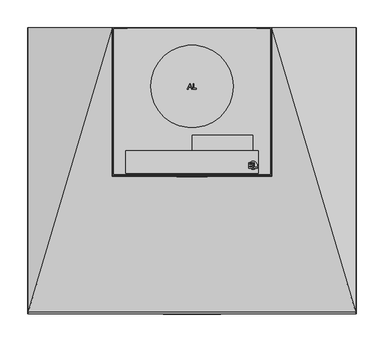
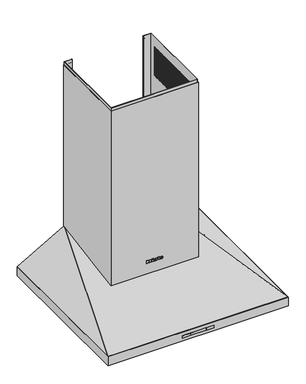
"""IFC4 building model written with IfcOpenShell, lengths in millimetres: proxy geometry, 10558640_TR_DA396-7_EDST : 28396750_TR_10558640_DA396-7_EDST."""

from ifc_helpers import new_model, si_unit, point, frame, frame_2d, origin, place, context, project, spatial, polyline, circle_curve, ellipse_curve, trimmed, segment, composite_curve, outline, extrude, faceted_brep, source, transform, mapped, element, save
from ifc_brep_helpers import plane_surface, cylinder_surface, revolved_surface, extruded_surface, advanced_brep


def specialty_equipment_92b99cc2(model_context):
    return source(origin(), model_context, "Body", "SolidModel", [
        extrude(outline(polyline([(110.5, -224.0), (0.5, -224.0), (0.5, -196.0), (110.5, -196.0), (110.5, -224.0)])), frame((0.0, 0.0, 392.0), z_axis=(0.0, 0.0, 1.0), x_axis=(1.0, 0.0, 0.0)), (0.0, 0.0, 1.0), 52.0),
        extrude(outline(polyline([(120.5, -224.0), (120.5, -265.0), (-120.5, -265.0), (-120.5, -224.0), (120.5, -224.0)])), frame((0.0, 0.0, 392.0), z_axis=(0.0, 0.0, 1.0), x_axis=(1.0, 0.0, 0.0)), (0.0, 0.0, 1.0), 122.0),
        extrude(outline(polyline([(110.014065, -245.4922441), (110.0153832, -246.7601226), (104.1612855, -246.7662093), (104.1643577, -249.7209702), (109.7295269, -249.7151839), (109.7308417, -250.9796987), (104.1656725, -250.9854851), (104.1690817, -254.2643966), (110.1974102, -254.2581287), (110.198736, -255.5332931), (102.9171087, -255.5332931), (102.9066684, -245.4922441), (110.014065, -245.4922441)])), frame((0.0, 0.0, 544.0), z_axis=(0.0, 0.0, 1.0), x_axis=(1.0, 0.0, 0.0)), (0.0, 0.0, 1.0), 1.0),
        extrude(outline(polyline([(112.0694489, -255.5332931), (112.0590087, -245.4922441), (113.3383774, -245.4922441), (113.3475128, -254.2784223), (118.3475101, -254.2732236), (118.3488202, -255.5332931), (112.0694489, -255.5332931)])), frame((0.0, 0.0, 544.0), z_axis=(0.0, 0.0, 1.0), x_axis=(1.0, 0.0, 0.0)), (0.0, 0.0, 1.0), 1.0),
        extrude(outline(composite_curve([segment(trimmed(circle_curve(frame_2d((111.0, -250.5)), 7.5), [point((103.5, -250.5))], [point((118.5, -250.5))], False, "CARTESIAN"), True, "CONTINUOUS"), segment(trimmed(circle_curve(frame_2d((111.0, -250.5)), 7.5), [point((118.5, -250.5))], [point((103.5, -250.5))], False, "CARTESIAN"), True, "CONTINUOUS")], self_intersect=False)), frame((0.0, 0.0, 514.0), z_axis=(0.0, 0.0, 1.0), x_axis=(1.0, 0.0, 0.0)), (0.0, 0.0, 1.0), 30.0),
        extrude(outline(polyline([(-4.5318611, -101.9516419), (-3.4734674, -101.9516419), (0.5452436, -111.9981975), (-0.792243, -111.9981975), (-1.9351182, -108.8581737), (-6.0626299, -108.8581737), (-7.2022382, -111.9892215), (-8.5533668, -111.9892215), (-4.5318611, -101.9516419)]), holes=[polyline([(-5.5985064, -107.6034349), (-2.3931536, -107.6034349), (-4.0041432, -103.2229581), (-5.5985064, -107.6034349)])]), frame((0.0, 0.0, 421.0), z_axis=(0.0, 0.0, 1.0), x_axis=(1.0, 0.0, 0.0)), (0.0, 0.0, 1.0), 1.0),
        extrude(outline(polyline([(1.881291, -112.0005008), (1.881291, -101.9479948), (3.1588826, -101.9479948), (3.1588826, -110.7519516), (8.1588826, -110.7519516), (8.1588826, -112.0005008), (1.881291, -112.0005008)])), frame((0.0, 0.0, 421.0), z_axis=(0.0, 0.0, 1.0), x_axis=(1.0, 0.0, 0.0)), (0.0, 0.0, 1.0), 1.0),
        extrude(outline(composite_curve([segment(trimmed(circle_curve(frame_2d((0.0, -107.0)), 75.0), [point((75.0, -107.0))], [point((-75.0, -107.0))], False, "CARTESIAN"), True, "CONTINUOUS"), segment(trimmed(circle_curve(frame_2d((0.0, -107.0)), 75.0), [point((-75.0, -107.0))], [point((75.0, -107.0))], False, "CARTESIAN"), True, "CONTINUOUS")], self_intersect=False)), frame((0.0, 0.0, 392.0), z_axis=(0.0, 0.0, 1.0), x_axis=(1.0, 0.0, 0.0)), (0.0, 0.0, 1.0), 29.0),
        extrude(outline(polyline([(142.95, -1.6), (142.95, -267.5), (-142.95, -267.5), (-142.95, -1.6), (142.95, -1.6)])), frame((0.0, 0.0, 391.0), z_axis=(0.0, 0.0, 1.0), x_axis=(1.0, 0.0, 0.0)), (0.0, 0.0, 1.0), 1.0),
        faceted_brep([(-145.0, 0.0, 685.0), (-145.0, -270.0, 685.0), (145.0, -270.0, 685.0), (145.0, 0.0, 685.0), (118.0, 0.0, 685.0), (118.0, -0.8, 685.0), (144.2, -0.8, 685.0), (144.2, -269.2, 685.0), (-144.2, -269.2, 685.0), (-144.2, -0.8, 685.0), (-118.0, -0.8, 685.0), (-118.0, 0.0, 685.0), (145.0, 0.0, 120.0), (-145.0, 0.0, 120.0), (-118.0, 0.0, 392.0), (118.0, 0.0, 392.0), (-145.0, -270.0, 74.0), (145.0, -270.0, 74.0), (144.2, -0.8, 119.8637037), (144.2, -269.2, 74.1362963), (-144.2, -269.2, 74.1362963), (-144.2, -0.8, 119.8637037), (118.0, -0.8, 392.0), (-118.0, -0.8, 392.0)], [[[0, 1, 2, 3, 4, 5, 6, 7, 8, 9, 10, 11]], [[3, 12, 13, 0, 11, 14, 15, 4]], [[1, 0, 13, 16]], [[2, 1, 16, 17]], [[3, 2, 17, 12]], [[7, 6, 18, 19]], [[8, 7, 19, 20]], [[9, 8, 20, 21]], [[18, 6, 5, 22, 23, 10, 9, 21]], [[13, 12, 17, 16], [19, 18, 21, 20]], [[15, 22, 5, 4]], [[23, 14, 11, 10]], [[22, 15, 14, 23]]]),
        faceted_brep([(-143.75, -0.8, 695.0), (-143.75, -268.3, 695.0), (143.75, -268.3, 695.0), (143.75, -0.8, 695.0), (118.0, -0.8, 695.0), (118.0, -1.6, 695.0), (142.95, -1.6, 695.0), (142.95, -267.5, 695.0), (-142.95, -267.5, 695.0), (-142.95, -1.6, 695.0), (-118.0, -1.6, 695.0), (-118.0, -0.8, 695.0), (143.75, -0.8, 220.0), (143.75, -268.3, 220.0), (-143.75, -268.3, 220.0), (-143.75, -0.8, 220.0), (142.95, -1.6, 220.0), (-142.95, -1.6, 220.0), (-142.95, -267.5, 220.0), (142.95, -267.5, 220.0), (-118.0, -0.8, 392.0), (118.0, -0.8, 392.0), (-143.75, -242.0, 660.0), (-143.75, -247.0, 660.0), (-143.75, -247.0, 560.0), (-143.75, -242.0, 560.0), (-143.75, -27.0, 560.0), (-143.75, -22.0, 560.0), (-143.75, -22.0, 660.0), (-143.75, -27.0, 660.0), (-143.75, -237.0, 660.0), (-143.75, -237.0, 560.0), (-143.75, -232.0, 560.0), (-143.75, -232.0, 660.0), (-143.75, -227.0, 660.0), (-143.75, -227.0, 560.0), (-143.75, -222.0, 560.0), (-143.75, -222.0, 660.0), (-143.75, -217.0, 660.0), (-143.75, -217.0, 560.0), (-143.75, -212.0, 560.0), (-143.75, -212.0, 660.0), (-143.75, -207.0, 660.0), (-143.75, -207.0, 560.0), (-143.75, -202.0, 560.0), (-143.75, -202.0, 660.0), (-143.75, -197.0, 660.0), (-143.75, -197.0, 560.0), (-143.75, -192.0, 560.0), (-143.75, -192.0, 660.0), (-143.75, -187.0, 660.0), (-143.75, -187.0, 560.0), (-143.75, -182.0, 560.0), (-143.75, -182.0, 660.0), (-143.75, -177.0, 660.0), (-143.75, -177.0, 560.0), (-143.75, -172.0, 560.0), (-143.75, -172.0, 660.0), (-143.75, -167.0, 660.0), (-143.75, -167.0, 560.0), (-143.75, -162.0, 560.0), (-143.75, -162.0, 660.0), (-143.75, -157.0, 660.0), (-143.75, -157.0, 560.0), (-143.75, -152.0, 560.0), (-143.75, -152.0, 660.0), (-143.75, -147.0, 660.0), (-143.75, -147.0, 560.0), (-143.75, -142.0, 560.0), (-143.75, -142.0, 660.0), (-143.75, -137.0, 660.0), (-143.75, -137.0, 560.0), (-143.75, -132.0, 560.0), (-143.75, -132.0, 660.0), (-143.75, -127.0, 660.0), (-143.75, -127.0, 560.0), (-143.75, -122.0, 560.0), (-143.75, -122.0, 660.0), (-143.75, -117.0, 660.0), (-143.75, -117.0, 560.0), (-143.75, -112.0, 560.0), (-143.75, -112.0, 660.0), (-143.75, -107.0, 660.0), (-143.75, -107.0, 560.0), (-143.75, -102.0, 560.0), (-143.75, -102.0, 660.0), (-143.75, -97.0, 660.0), (-143.75, -97.0, 560.0), (-143.75, -92.0, 560.0), (-143.75, -92.0, 660.0), (-143.75, -87.0, 660.0), (-143.75, -87.0, 560.0), (-143.75, -82.0, 560.0), (-143.75, -82.0, 660.0), (-143.75, -77.0, 660.0), (-143.75, -77.0, 560.0), (-143.75, -72.0, 560.0), (-143.75, -72.0, 660.0), (-143.75, -67.0, 660.0), (-143.75, -67.0, 560.0), (-143.75, -62.0, 560.0), (-143.75, -62.0, 660.0), (-143.75, -57.0, 660.0), (-143.75, -57.0, 560.0), (-143.75, -52.0, 560.0), (-143.75, -52.0, 660.0), (-143.75, -47.0, 660.0), (-143.75, -47.0, 560.0), (-143.75, -42.0, 560.0), (-143.75, -42.0, 660.0), (-143.75, -37.0, 660.0), (-143.75, -37.0, 560.0), (-143.75, -32.0, 560.0), (-143.75, -32.0, 660.0), (122.5, -268.3, 560.0), (117.5, -268.3, 560.0), (117.5, -268.3, 660.0), (122.5, -268.3, 660.0), (-122.5, -268.3, 560.0), (-122.5, -268.3, 660.0), (-117.5, -268.3, 660.0), (-117.5, -268.3, 560.0), (-112.5, -268.3, 660.0), (-107.5, -268.3, 660.0), (-107.5, -268.3, 560.0), (-112.5, -268.3, 560.0), (-102.5, -268.3, 660.0), (-97.5, -268.3, 660.0), (-97.5, -268.3, 560.0), (-102.5, -268.3, 560.0), (-92.5, -268.3, 660.0), (-87.5, -268.3, 660.0), (-87.5, -268.3, 560.0), (-92.5, -268.3, 560.0), (-82.5, -268.3, 660.0), (-77.5, -268.3, 660.0), (-77.5, -268.3, 560.0), (-82.5, -268.3, 560.0), (-72.5, -268.3, 660.0), (-67.5, -268.3, 660.0), (-67.5, -268.3, 560.0), (-72.5, -268.3, 560.0), (-62.5, -268.3, 660.0), (-57.5, -268.3, 660.0), (-57.5, -268.3, 560.0), (-62.5, -268.3, 560.0), (-52.5, -268.3, 660.0), (-47.5, -268.3, 660.0), (-47.5, -268.3, 560.0), (-52.5, -268.3, 560.0), (-42.5, -268.3, 660.0), (-37.5, -268.3, 660.0), (-37.5, -268.3, 560.0), (-42.5, -268.3, 560.0), (-32.5, -268.3, 660.0), (-27.5, -268.3, 660.0), (-27.5, -268.3, 560.0), (-32.5, -268.3, 560.0), (-22.5, -268.3, 660.0), (-17.5, -268.3, 660.0), (-17.5, -268.3, 560.0), (-22.5, -268.3, 560.0), (-12.5, -268.3, 660.0), (-7.5, -268.3, 660.0), (-7.5, -268.3, 560.0), (-12.5, -268.3, 560.0), (-2.5, -268.3, 660.0), (2.5, -268.3, 660.0), (2.5, -268.3, 560.0), (-2.5, -268.3, 560.0), (7.5, -268.3, 660.0), (12.5, -268.3, 660.0), (12.5, -268.3, 560.0), (7.5, -268.3, 560.0), (17.5, -268.3, 660.0), (22.5, -268.3, 660.0), (22.5, -268.3, 560.0), (17.5, -268.3, 560.0), (27.5, -268.3, 660.0), (32.5, -268.3, 660.0), (32.5, -268.3, 560.0), (27.5, -268.3, 560.0), (37.5, -268.3, 660.0), (42.5, -268.3, 660.0), (42.5, -268.3, 560.0), (37.5, -268.3, 560.0), (47.5, -268.3, 660.0), (52.5, -268.3, 660.0), (52.5, -268.3, 560.0), (47.5, -268.3, 560.0), (57.5, -268.3, 660.0), (62.5, -268.3, 660.0), (62.5, -268.3, 560.0), (57.5, -268.3, 560.0), (67.5, -268.3, 660.0), (72.5, -268.3, 660.0), (72.5, -268.3, 560.0), (67.5, -268.3, 560.0), (77.5, -268.3, 660.0), (82.5, -268.3, 660.0), (82.5, -268.3, 560.0), (77.5, -268.3, 560.0), (87.5, -268.3, 660.0), (92.5, -268.3, 660.0), (92.5, -268.3, 560.0), (87.5, -268.3, 560.0), (97.5, -268.3, 660.0), (102.5, -268.3, 660.0), (102.5, -268.3, 560.0), (97.5, -268.3, 560.0), (107.5, -268.3, 660.0), (112.5, -268.3, 660.0), (112.5, -268.3, 560.0), (107.5, -268.3, 560.0), (143.75, -247.0, 660.0), (143.75, -242.0, 660.0), (143.75, -242.0, 560.0), (143.75, -247.0, 560.0), (143.75, -22.0, 560.0), (143.75, -27.0, 560.0), (143.75, -27.0, 660.0), (143.75, -22.0, 660.0), (143.75, -237.0, 560.0), (143.75, -237.0, 660.0), (143.75, -232.0, 660.0), (143.75, -232.0, 560.0), (143.75, -227.0, 560.0), (143.75, -227.0, 660.0), (143.75, -222.0, 660.0), (143.75, -222.0, 560.0), (143.75, -217.0, 560.0), (143.75, -217.0, 660.0), (143.75, -212.0, 660.0), (143.75, -212.0, 560.0), (143.75, -207.0, 560.0), (143.75, -207.0, 660.0), (143.75, -202.0, 660.0), (143.75, -202.0, 560.0), (143.75, -197.0, 560.0), (143.75, -197.0, 660.0), (143.75, -192.0, 660.0), (143.75, -192.0, 560.0), (143.75, -187.0, 560.0), (143.75, -187.0, 660.0), (143.75, -182.0, 660.0), (143.75, -182.0, 560.0), (143.75, -177.0, 560.0), (143.75, -177.0, 660.0), (143.75, -172.0, 660.0), (143.75, -172.0, 560.0), (143.75, -167.0, 560.0), (143.75, -167.0, 660.0), (143.75, -162.0, 660.0), (143.75, -162.0, 560.0), (143.75, -157.0, 560.0), (143.75, -157.0, 660.0), (143.75, -152.0, 660.0), (143.75, -152.0, 560.0), (143.75, -147.0, 560.0), (143.75, -147.0, 660.0), (143.75, -142.0, 660.0), (143.75, -142.0, 560.0), (143.75, -137.0, 560.0), (143.75, -137.0, 660.0), (143.75, -132.0, 660.0), (143.75, -132.0, 560.0), (143.75, -127.0, 560.0), (143.75, -127.0, 660.0), (143.75, -122.0, 660.0), (143.75, -122.0, 560.0), (143.75, -117.0, 560.0), (143.75, -117.0, 660.0), (143.75, -112.0, 660.0), (143.75, -112.0, 560.0), (143.75, -107.0, 560.0), (143.75, -107.0, 660.0), (143.75, -102.0, 660.0), (143.75, -102.0, 560.0), (143.75, -97.0, 560.0), (143.75, -97.0, 660.0), (143.75, -92.0, 660.0), (143.75, -92.0, 560.0), (143.75, -87.0, 560.0), (143.75, -87.0, 660.0), (143.75, -82.0, 660.0), (143.75, -82.0, 560.0), (143.75, -77.0, 560.0), (143.75, -77.0, 660.0), (143.75, -72.0, 660.0), (143.75, -72.0, 560.0), (143.75, -67.0, 560.0), (143.75, -67.0, 660.0), (143.75, -62.0, 660.0), (143.75, -62.0, 560.0), (143.75, -57.0, 560.0), (143.75, -57.0, 660.0), (143.75, -52.0, 660.0), (143.75, -52.0, 560.0), (143.75, -47.0, 560.0), (143.75, -47.0, 660.0), (143.75, -42.0, 660.0), (143.75, -42.0, 560.0), (143.75, -37.0, 560.0), (143.75, -37.0, 660.0), (143.75, -32.0, 660.0), (143.75, -32.0, 560.0), (142.95, -242.0, 660.0), (142.95, -247.0, 660.0), (142.95, -247.0, 560.0), (142.95, -242.0, 560.0), (142.95, -27.0, 560.0), (142.95, -22.0, 560.0), (142.95, -22.0, 660.0), (142.95, -27.0, 660.0), (142.95, -237.0, 660.0), (142.95, -237.0, 560.0), (142.95, -232.0, 560.0), (142.95, -232.0, 660.0), (142.95, -227.0, 660.0), (142.95, -227.0, 560.0), (142.95, -222.0, 560.0), (142.95, -222.0, 660.0), (142.95, -217.0, 660.0), (142.95, -217.0, 560.0), (142.95, -212.0, 560.0), (142.95, -212.0, 660.0), (142.95, -207.0, 660.0), (142.95, -207.0, 560.0), (142.95, -202.0, 560.0), (142.95, -202.0, 660.0), (142.95, -197.0, 660.0), (142.95, -197.0, 560.0), (142.95, -192.0, 560.0), (142.95, -192.0, 660.0), (142.95, -187.0, 660.0), (142.95, -187.0, 560.0), (142.95, -182.0, 560.0), (142.95, -182.0, 660.0), (142.95, -177.0, 660.0), (142.95, -177.0, 560.0), (142.95, -172.0, 560.0), (142.95, -172.0, 660.0), (142.95, -167.0, 660.0), (142.95, -167.0, 560.0), (142.95, -162.0, 560.0), (142.95, -162.0, 660.0), (142.95, -157.0, 660.0), (142.95, -157.0, 560.0), (142.95, -152.0, 560.0), (142.95, -152.0, 660.0), (142.95, -147.0, 660.0), (142.95, -147.0, 560.0), (142.95, -142.0, 560.0), (142.95, -142.0, 660.0), (142.95, -137.0, 660.0), (142.95, -137.0, 560.0), (142.95, -132.0, 560.0), (142.95, -132.0, 660.0), (142.95, -127.0, 660.0), (142.95, -127.0, 560.0), (142.95, -122.0, 560.0), (142.95, -122.0, 660.0), (142.95, -117.0, 660.0), (142.95, -117.0, 560.0), (142.95, -112.0, 560.0), (142.95, -112.0, 660.0), (142.95, -107.0, 660.0), (142.95, -107.0, 560.0), (142.95, -102.0, 560.0), (142.95, -102.0, 660.0), (142.95, -97.0, 660.0), (142.95, -97.0, 560.0), (142.95, -92.0, 560.0), (142.95, -92.0, 660.0), (142.95, -87.0, 660.0), (142.95, -87.0, 560.0), (142.95, -82.0, 560.0), (142.95, -82.0, 660.0), (142.95, -77.0, 660.0), (142.95, -77.0, 560.0), (142.95, -72.0, 560.0), (142.95, -72.0, 660.0), (142.95, -67.0, 660.0), (142.95, -67.0, 560.0), (142.95, -62.0, 560.0), (142.95, -62.0, 660.0), (142.95, -57.0, 660.0), (142.95, -57.0, 560.0), (142.95, -52.0, 560.0), (142.95, -52.0, 660.0), (142.95, -47.0, 660.0), (142.95, -47.0, 560.0), (142.95, -42.0, 560.0), (142.95, -42.0, 660.0), (142.95, -37.0, 660.0), (142.95, -37.0, 560.0), (142.95, -32.0, 560.0), (142.95, -32.0, 660.0), (117.5, -267.5, 560.0), (122.5, -267.5, 560.0), (122.5, -267.5, 660.0), (117.5, -267.5, 660.0), (-122.5, -267.5, 660.0), (-122.5, -267.5, 560.0), (-117.5, -267.5, 560.0), (-117.5, -267.5, 660.0), (-107.5, -267.5, 660.0), (-112.5, -267.5, 660.0), (-112.5, -267.5, 560.0), (-107.5, -267.5, 560.0), (-97.5, -267.5, 660.0), (-102.5, -267.5, 660.0), (-102.5, -267.5, 560.0), (-97.5, -267.5, 560.0), (-87.5, -267.5, 660.0), (-92.5, -267.5, 660.0), (-92.5, -267.5, 560.0), (-87.5, -267.5, 560.0), (-77.5, -267.5, 660.0), (-82.5, -267.5, 660.0), (-82.5, -267.5, 560.0), (-77.5, -267.5, 560.0), (-67.5, -267.5, 660.0), (-72.5, -267.5, 660.0), (-72.5, -267.5, 560.0), (-67.5, -267.5, 560.0), (-57.5, -267.5, 660.0), (-62.5, -267.5, 660.0), (-62.5, -267.5, 560.0), (-57.5, -267.5, 560.0), (-47.5, -267.5, 660.0), (-52.5, -267.5, 660.0), (-52.5, -267.5, 560.0), (-47.5, -267.5, 560.0), (-37.5, -267.5, 660.0), (-42.5, -267.5, 660.0), (-42.5, -267.5, 560.0), (-37.5, -267.5, 560.0), (-27.5, -267.5, 660.0), (-32.5, -267.5, 660.0), (-32.5, -267.5, 560.0), (-27.5, -267.5, 560.0), (-17.5, -267.5, 660.0), (-22.5, -267.5, 660.0), (-22.5, -267.5, 560.0), (-17.5, -267.5, 560.0), (-7.5, -267.5, 660.0), (-12.5, -267.5, 660.0), (-12.5, -267.5, 560.0), (-7.5, -267.5, 560.0), (2.5, -267.5, 660.0), (-2.5, -267.5, 660.0), (-2.5, -267.5, 560.0), (2.5, -267.5, 560.0), (12.5, -267.5, 660.0), (7.5, -267.5, 660.0), (7.5, -267.5, 560.0), (12.5, -267.5, 560.0), (22.5, -267.5, 660.0), (17.5, -267.5, 660.0), (17.5, -267.5, 560.0), (22.5, -267.5, 560.0), (32.5, -267.5, 660.0), (27.5, -267.5, 660.0), (27.5, -267.5, 560.0), (32.5, -267.5, 560.0), (42.5, -267.5, 660.0), (37.5, -267.5, 660.0), (37.5, -267.5, 560.0), (42.5, -267.5, 560.0), (52.5, -267.5, 660.0), (47.5, -267.5, 660.0), (47.5, -267.5, 560.0), (52.5, -267.5, 560.0), (62.5, -267.5, 660.0), (57.5, -267.5, 660.0), (57.5, -267.5, 560.0), (62.5, -267.5, 560.0), (72.5, -267.5, 660.0), (67.5, -267.5, 660.0), (67.5, -267.5, 560.0), (72.5, -267.5, 560.0), (82.5, -267.5, 660.0), (77.5, -267.5, 660.0), (77.5, -267.5, 560.0), (82.5, -267.5, 560.0), (92.5, -267.5, 660.0), (87.5, -267.5, 660.0), (87.5, -267.5, 560.0), (92.5, -267.5, 560.0), (102.5, -267.5, 660.0), (97.5, -267.5, 660.0), (97.5, -267.5, 560.0), (102.5, -267.5, 560.0), (112.5, -267.5, 660.0), (107.5, -267.5, 660.0), (107.5, -267.5, 560.0), (112.5, -267.5, 560.0), (-142.95, -247.0, 660.0), (-142.95, -242.0, 660.0), (-142.95, -242.0, 560.0), (-142.95, -247.0, 560.0), (-142.95, -22.0, 560.0), (-142.95, -27.0, 560.0), (-142.95, -27.0, 660.0), (-142.95, -22.0, 660.0), (-142.95, -237.0, 560.0), (-142.95, -237.0, 660.0), (-142.95, -232.0, 660.0), (-142.95, -232.0, 560.0), (-142.95, -227.0, 560.0), (-142.95, -227.0, 660.0), (-142.95, -222.0, 660.0), (-142.95, -222.0, 560.0), (-142.95, -217.0, 560.0), (-142.95, -217.0, 660.0), (-142.95, -212.0, 660.0), (-142.95, -212.0, 560.0), (-142.95, -207.0, 560.0), (-142.95, -207.0, 660.0), (-142.95, -202.0, 660.0), (-142.95, -202.0, 560.0), (-142.95, -197.0, 560.0), (-142.95, -197.0, 660.0), (-142.95, -192.0, 660.0), (-142.95, -192.0, 560.0), (-142.95, -187.0, 560.0), (-142.95, -187.0, 660.0), (-142.95, -182.0, 660.0), (-142.95, -182.0, 560.0), (-142.95, -177.0, 560.0), (-142.95, -177.0, 660.0), (-142.95, -172.0, 660.0), (-142.95, -172.0, 560.0), (-142.95, -167.0, 560.0), (-142.95, -167.0, 660.0), (-142.95, -162.0, 660.0), (-142.95, -162.0, 560.0), (-142.95, -157.0, 560.0), (-142.95, -157.0, 660.0), (-142.95, -152.0, 660.0), (-142.95, -152.0, 560.0), (-142.95, -147.0, 560.0), (-142.95, -147.0, 660.0), (-142.95, -142.0, 660.0), (-142.95, -142.0, 560.0), (-142.95, -137.0, 560.0), (-142.95, -137.0, 660.0), (-142.95, -132.0, 660.0), (-142.95, -132.0, 560.0), (-142.95, -127.0, 560.0), (-142.95, -127.0, 660.0), (-142.95, -122.0, 660.0), (-142.95, -122.0, 560.0), (-142.95, -117.0, 560.0), (-142.95, -117.0, 660.0), (-142.95, -112.0, 660.0), (-142.95, -112.0, 560.0), (-142.95, -107.0, 560.0), (-142.95, -107.0, 660.0), (-142.95, -102.0, 660.0), (-142.95, -102.0, 560.0), (-142.95, -97.0, 560.0), (-142.95, -97.0, 660.0), (-142.95, -92.0, 660.0), (-142.95, -92.0, 560.0), (-142.95, -87.0, 560.0), (-142.95, -87.0, 660.0), (-142.95, -82.0, 660.0), (-142.95, -82.0, 560.0), (-142.95, -77.0, 560.0), (-142.95, -77.0, 660.0), (-142.95, -72.0, 660.0), (-142.95, -72.0, 560.0), (-142.95, -67.0, 560.0), (-142.95, -67.0, 660.0), (-142.95, -62.0, 660.0), (-142.95, -62.0, 560.0), (-142.95, -57.0, 560.0), (-142.95, -57.0, 660.0), (-142.95, -52.0, 660.0), (-142.95, -52.0, 560.0), (-142.95, -47.0, 560.0), (-142.95, -47.0, 660.0), (-142.95, -42.0, 660.0), (-142.95, -42.0, 560.0), (-142.95, -37.0, 560.0), (-142.95, -37.0, 660.0), (-142.95, -32.0, 660.0), (-142.95, -32.0, 560.0), (118.0, -1.6, 392.0), (-118.0, -1.6, 392.0)], [[[0, 1, 2, 3, 4, 5, 6, 7, 8, 9, 10, 11]], [[12, 13, 14, 15], [16, 17, 18, 19]], [[12, 15, 0, 11, 20, 21, 4, 3]], [[1, 0, 15, 14], [22, 23, 24, 25], [26, 27, 28, 29], [30, 31, 32, 33], [34, 35, 36, 37], [38, 39, 40, 41], [42, 43, 44, 45], [46, 47, 48, 49], [50, 51, 52, 53], [54, 55, 56, 57], [58, 59, 60, 61], [62, 63, 64, 65], [66, 67, 68, 69], [70, 71, 72, 73], [74, 75, 76, 77], [78, 79, 80, 81], [82, 83, 84, 85], [86, 87, 88, 89], [90, 91, 92, 93], [94, 95, 96, 97], [98, 99, 100, 101], [102, 103, 104, 105], [106, 107, 108, 109], [110, 111, 112, 113]], [[2, 1, 14, 13], [114, 115, 116, 117], [118, 119, 120, 121], [122, 123, 124, 125], [126, 127, 128, 129], [130, 131, 132, 133], [134, 135, 136, 137], [138, 139, 140, 141], [142, 143, 144, 145], [146, 147, 148, 149], [150, 151, 152, 153], [154, 155, 156, 157], [158, 159, 160, 161], [162, 163, 164, 165], [166, 167, 168, 169], [170, 171, 172, 173], [174, 175, 176, 177], [178, 179, 180, 181], [182, 183, 184, 185], [186, 187, 188, 189], [190, 191, 192, 193], [194, 195, 196, 197], [198, 199, 200, 201], [202, 203, 204, 205], [206, 207, 208, 209], [210, 211, 212, 213]], [[3, 2, 13, 12], [214, 215, 216, 217], [218, 219, 220, 221], [222, 223, 224, 225], [226, 227, 228, 229], [230, 231, 232, 233], [234, 235, 236, 237], [238, 239, 240, 241], [242, 243, 244, 245], [246, 247, 248, 249], [250, 251, 252, 253], [254, 255, 256, 257], [258, 259, 260, 261], [262, 263, 264, 265], [266, 267, 268, 269], [270, 271, 272, 273], [274, 275, 276, 277], [278, 279, 280, 281], [282, 283, 284, 285], [286, 287, 288, 289], [290, 291, 292, 293], [294, 295, 296, 297], [298, 299, 300, 301], [302, 303, 304, 305]], [[7, 6, 16, 19], [306, 307, 308, 309], [310, 311, 312, 313], [314, 315, 316, 317], [318, 319, 320, 321], [322, 323, 324, 325], [326, 327, 328, 329], [330, 331, 332, 333], [334, 335, 336, 337], [338, 339, 340, 341], [342, 343, 344, 345], [346, 347, 348, 349], [350, 351, 352, 353], [354, 355, 356, 357], [358, 359, 360, 361], [362, 363, 364, 365], [366, 367, 368, 369], [370, 371, 372, 373], [374, 375, 376, 377], [378, 379, 380, 381], [382, 383, 384, 385], [386, 387, 388, 389], [390, 391, 392, 393], [394, 395, 396, 397]], [[8, 7, 19, 18], [398, 399, 400, 401], [402, 403, 404, 405], [406, 407, 408, 409], [410, 411, 412, 413], [414, 415, 416, 417], [418, 419, 420, 421], [422, 423, 424, 425], [426, 427, 428, 429], [430, 431, 432, 433], [434, 435, 436, 437], [438, 439, 440, 441], [442, 443, 444, 445], [446, 447, 448, 449], [450, 451, 452, 453], [454, 455, 456, 457], [458, 459, 460, 461], [462, 463, 464, 465], [466, 467, 468, 469], [470, 471, 472, 473], [474, 475, 476, 477], [478, 479, 480, 481], [482, 483, 484, 485], [486, 487, 488, 489], [490, 491, 492, 493], [494, 495, 496, 497]], [[9, 8, 18, 17], [498, 499, 500, 501], [502, 503, 504, 505], [506, 507, 508, 509], [510, 511, 512, 513], [514, 515, 516, 517], [518, 519, 520, 521], [522, 523, 524, 525], [526, 527, 528, 529], [530, 531, 532, 533], [534, 535, 536, 537], [538, 539, 540, 541], [542, 543, 544, 545], [546, 547, 548, 549], [550, 551, 552, 553], [554, 555, 556, 557], [558, 559, 560, 561], [562, 563, 564, 565], [566, 567, 568, 569], [570, 571, 572, 573], [574, 575, 576, 577], [578, 579, 580, 581], [582, 583, 584, 585], [586, 587, 588, 589]], [[17, 16, 6, 5, 590, 591, 10, 9]], [[398, 115, 114, 399]], [[402, 119, 118, 403]], [[119, 402, 405, 120]], [[120, 405, 404, 121]], [[403, 118, 121, 404]], [[115, 398, 401, 116]], [[116, 401, 400, 117]], [[399, 114, 117, 400]], [[406, 123, 122, 407]], [[123, 406, 409, 124]], [[124, 409, 408, 125]], [[407, 122, 125, 408]], [[410, 127, 126, 411]], [[127, 410, 413, 128]], [[128, 413, 412, 129]], [[411, 126, 129, 412]], [[414, 131, 130, 415]], [[131, 414, 417, 132]], [[132, 417, 416, 133]], [[415, 130, 133, 416]], [[418, 135, 134, 419]], [[135, 418, 421, 136]], [[136, 421, 420, 137]], [[419, 134, 137, 420]], [[422, 139, 138, 423]], [[139, 422, 425, 140]], [[140, 425, 424, 141]], [[423, 138, 141, 424]], [[426, 143, 142, 427]], [[143, 426, 429, 144]], [[144, 429, 428, 145]], [[427, 142, 145, 428]], [[430, 147, 146, 431]], [[147, 430, 433, 148]], [[148, 433, 432, 149]], [[431, 146, 149, 432]], [[434, 151, 150, 435]], [[151, 434, 437, 152]], [[152, 437, 436, 153]], [[435, 150, 153, 436]], [[438, 155, 154, 439]], [[155, 438, 441, 156]], [[156, 441, 440, 157]], [[439, 154, 157, 440]], [[442, 159, 158, 443]], [[159, 442, 445, 160]], [[160, 445, 444, 161]], [[443, 158, 161, 444]], [[446, 163, 162, 447]], [[163, 446, 449, 164]], [[164, 449, 448, 165]], [[447, 162, 165, 448]], [[450, 167, 166, 451]], [[167, 450, 453, 168]], [[168, 453, 452, 169]], [[451, 166, 169, 452]], [[454, 171, 170, 455]], [[171, 454, 457, 172]], [[172, 457, 456, 173]], [[455, 170, 173, 456]], [[458, 175, 174, 459]], [[175, 458, 461, 176]], [[176, 461, 460, 177]], [[459, 174, 177, 460]], [[462, 179, 178, 463]], [[179, 462, 465, 180]], [[180, 465, 464, 181]], [[463, 178, 181, 464]], [[466, 183, 182, 467]], [[183, 466, 469, 184]], [[184, 469, 468, 185]], [[467, 182, 185, 468]], [[470, 187, 186, 471]], [[187, 470, 473, 188]], [[188, 473, 472, 189]], [[471, 186, 189, 472]], [[474, 191, 190, 475]], [[191, 474, 477, 192]], [[192, 477, 476, 193]], [[475, 190, 193, 476]], [[478, 195, 194, 479]], [[195, 478, 481, 196]], [[196, 481, 480, 197]], [[479, 194, 197, 480]], [[482, 199, 198, 483]], [[199, 482, 485, 200]], [[200, 485, 484, 201]], [[483, 198, 201, 484]], [[486, 203, 202, 487]], [[203, 486, 489, 204]], [[204, 489, 488, 205]], [[487, 202, 205, 488]], [[490, 207, 206, 491]], [[207, 490, 493, 208]], [[208, 493, 492, 209]], [[491, 206, 209, 492]], [[494, 211, 210, 495]], [[211, 494, 497, 212]], [[212, 497, 496, 213]], [[495, 210, 213, 496]], [[306, 215, 214, 307]], [[22, 499, 498, 23]], [[307, 214, 217, 308]], [[23, 498, 501, 24]], [[308, 217, 216, 309]], [[24, 501, 500, 25]], [[215, 306, 309, 216]], [[499, 22, 25, 500]], [[310, 219, 218, 311]], [[26, 503, 502, 27]], [[311, 218, 221, 312]], [[27, 502, 505, 28]], [[312, 221, 220, 313]], [[28, 505, 504, 29]], [[219, 310, 313, 220]], [[503, 26, 29, 504]], [[314, 223, 222, 315]], [[30, 507, 506, 31]], [[315, 222, 225, 316]], [[31, 506, 509, 32]], [[316, 225, 224, 317]], [[32, 509, 508, 33]], [[223, 314, 317, 224]], [[507, 30, 33, 508]], [[318, 227, 226, 319]], [[34, 511, 510, 35]], [[319, 226, 229, 320]], [[35, 510, 513, 36]], [[320, 229, 228, 321]], [[36, 513, 512, 37]], [[227, 318, 321, 228]], [[511, 34, 37, 512]], [[322, 231, 230, 323]], [[38, 515, 514, 39]], [[323, 230, 233, 324]], [[39, 514, 517, 40]], [[324, 233, 232, 325]], [[40, 517, 516, 41]], [[231, 322, 325, 232]], [[515, 38, 41, 516]], [[326, 235, 234, 327]], [[42, 519, 518, 43]], [[327, 234, 237, 328]], [[43, 518, 521, 44]], [[328, 237, 236, 329]], [[44, 521, 520, 45]], [[235, 326, 329, 236]], [[519, 42, 45, 520]], [[330, 239, 238, 331]], [[46, 523, 522, 47]], [[331, 238, 241, 332]], [[47, 522, 525, 48]], [[332, 241, 240, 333]], [[48, 525, 524, 49]], [[239, 330, 333, 240]], [[523, 46, 49, 524]], [[334, 243, 242, 335]], [[50, 527, 526, 51]], [[335, 242, 245, 336]], [[51, 526, 529, 52]], [[336, 245, 244, 337]], [[52, 529, 528, 53]], [[243, 334, 337, 244]], [[527, 50, 53, 528]], [[338, 247, 246, 339]], [[54, 531, 530, 55]], [[339, 246, 249, 340]], [[55, 530, 533, 56]], [[340, 249, 248, 341]], [[56, 533, 532, 57]], [[247, 338, 341, 248]], [[531, 54, 57, 532]], [[342, 251, 250, 343]], [[58, 535, 534, 59]], [[343, 250, 253, 344]], [[59, 534, 537, 60]], [[344, 253, 252, 345]], [[60, 537, 536, 61]], [[251, 342, 345, 252]], [[535, 58, 61, 536]], [[346, 255, 254, 347]], [[62, 539, 538, 63]], [[347, 254, 257, 348]], [[63, 538, 541, 64]], [[348, 257, 256, 349]], [[64, 541, 540, 65]], [[255, 346, 349, 256]], [[539, 62, 65, 540]], [[350, 259, 258, 351]], [[66, 543, 542, 67]], [[351, 258, 261, 352]], [[67, 542, 545, 68]], [[352, 261, 260, 353]], [[68, 545, 544, 69]], [[259, 350, 353, 260]], [[543, 66, 69, 544]], [[354, 263, 262, 355]], [[70, 547, 546, 71]], [[355, 262, 265, 356]], [[71, 546, 549, 72]], [[356, 265, 264, 357]], [[72, 549, 548, 73]], [[263, 354, 357, 264]], [[547, 70, 73, 548]], [[358, 267, 266, 359]], [[74, 551, 550, 75]], [[359, 266, 269, 360]], [[75, 550, 553, 76]], [[360, 269, 268, 361]], [[76, 553, 552, 77]], [[267, 358, 361, 268]], [[551, 74, 77, 552]], [[362, 271, 270, 363]], [[78, 555, 554, 79]], [[363, 270, 273, 364]], [[79, 554, 557, 80]], [[364, 273, 272, 365]], [[80, 557, 556, 81]], [[271, 362, 365, 272]], [[555, 78, 81, 556]], [[366, 275, 274, 367]], [[82, 559, 558, 83]], [[367, 274, 277, 368]], [[83, 558, 561, 84]], [[368, 277, 276, 369]], [[84, 561, 560, 85]], [[275, 366, 369, 276]], [[559, 82, 85, 560]], [[370, 279, 278, 371]], [[86, 563, 562, 87]], [[371, 278, 281, 372]], [[87, 562, 565, 88]], [[372, 281, 280, 373]], [[88, 565, 564, 89]], [[279, 370, 373, 280]], [[563, 86, 89, 564]], [[374, 283, 282, 375]], [[90, 567, 566, 91]], [[375, 282, 285, 376]], [[91, 566, 569, 92]], [[376, 285, 284, 377]], [[92, 569, 568, 93]], [[283, 374, 377, 284]], [[567, 90, 93, 568]], [[378, 287, 286, 379]], [[94, 571, 570, 95]], [[379, 286, 289, 380]], [[95, 570, 573, 96]], [[380, 289, 288, 381]], [[96, 573, 572, 97]], [[287, 378, 381, 288]], [[571, 94, 97, 572]], [[382, 291, 290, 383]], [[98, 575, 574, 99]], [[383, 290, 293, 384]], [[99, 574, 577, 100]], [[384, 293, 292, 385]], [[100, 577, 576, 101]], [[291, 382, 385, 292]], [[575, 98, 101, 576]], [[386, 295, 294, 387]], [[102, 579, 578, 103]], [[387, 294, 297, 388]], [[103, 578, 581, 104]], [[388, 297, 296, 389]], [[104, 581, 580, 105]], [[295, 386, 389, 296]], [[579, 102, 105, 580]], [[390, 299, 298, 391]], [[106, 583, 582, 107]], [[391, 298, 301, 392]], [[107, 582, 585, 108]], [[392, 301, 300, 393]], [[108, 585, 584, 109]], [[299, 390, 393, 300]], [[583, 106, 109, 584]], [[394, 303, 302, 395]], [[110, 587, 586, 111]], [[395, 302, 305, 396]], [[111, 586, 589, 112]], [[396, 305, 304, 397]], [[112, 589, 588, 113]], [[303, 394, 397, 304]], [[587, 110, 113, 588]], [[21, 590, 5, 4]], [[591, 20, 11, 10]], [[590, 21, 20, 591]]]),
        extrude(outline(composite_curve([segment(trimmed(circle_curve(frame_2d((350.0, 22.5)), 25.0), [point((350.0, 47.4999999))], [point((350.0, -2.5000001))], False, "CARTESIAN"), True, "CONTINUOUS"), segment(trimmed(circle_curve(frame_2d((350.0, 22.5)), 25.0), [point((350.0, -2.5000001))], [point((350.0, 47.4999999))], False, "CARTESIAN"), True, "CONTINUOUS")], self_intersect=False), holes=[composite_curve([segment(trimmed(circle_curve(frame_2d((350.0, 22.5)), 22.5), [point((350.0, 45.0))], [point((350.0, 0.0))], True, "CARTESIAN"), True, "CONTINUOUS"), segment(trimmed(circle_curve(frame_2d((350.0, 22.5)), 22.5), [point((350.0, 0.0))], [point((350.0, 45.0))], True, "CARTESIAN"), True, "CONTINUOUS")], self_intersect=False)]), frame((-175.0, -72.2893414, 10.8398048), z_axis=(0.0, 0.1959461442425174, 0.9806146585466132), x_axis=(1.0, 0.0, 0.0)), (0.0, 0.0, 1.0), 2.0),
        extrude(outline(composite_curve([segment(trimmed(circle_curve(frame_2d((0.0, 22.5)), 25.0), [point((0.0, -2.5000001))], [point((0.0, 47.4999999))], False, "CARTESIAN"), True, "CONTINUOUS"), segment(trimmed(circle_curve(frame_2d((0.0, 22.5)), 25.0), [point((0.0, 47.4999999))], [point((0.0, -2.5000001))], False, "CARTESIAN"), True, "CONTINUOUS")], self_intersect=False), holes=[composite_curve([segment(trimmed(circle_curve(frame_2d((0.0, 22.5)), 22.5), [point((0.0, 45.0))], [point((0.0, 0.0))], True, "CARTESIAN"), True, "CONTINUOUS"), segment(trimmed(circle_curve(frame_2d((0.0, 22.5)), 22.5), [point((0.0, 0.0))], [point((0.0, 45.0))], True, "CARTESIAN"), True, "CONTINUOUS")], self_intersect=False)]), frame((-175.0, -72.2893414, 10.8398048), z_axis=(0.0, 0.1959461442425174, 0.9806146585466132), x_axis=(1.0, 0.0, 0.0)), (0.0, 0.0, 1.0), 2.0),
        extrude(outline(composite_curve([segment(trimmed(circle_curve(frame_2d((0.0, -22.5)), 22.5), [point((0.0, 0.0))], [point((0.0, -45.0))], False, "CARTESIAN"), True, "CONTINUOUS"), segment(trimmed(circle_curve(frame_2d((0.0, -22.5)), 22.5), [point((0.0, -45.0))], [point((0.0, 0.0))], False, "CARTESIAN"), True, "CONTINUOUS")], self_intersect=False)), frame((-175.0, -73.073126, 6.9173462), z_axis=(0.0, 0.1959461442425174, 0.9806146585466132), x_axis=(-1.0, 0.0, 0.0)), (0.0, 0.0, 1.0), 6.0),
        extrude(outline(composite_curve([segment(trimmed(circle_curve(frame_2d((-350.0, -22.5)), 22.5), [point((-350.0, 0.0))], [point((-350.0, -45.0))], False, "CARTESIAN"), True, "CONTINUOUS"), segment(trimmed(circle_curve(frame_2d((-350.0, -22.5)), 22.5), [point((-350.0, -45.0))], [point((-350.0, 0.0))], False, "CARTESIAN"), True, "CONTINUOUS")], self_intersect=False)), frame((-175.0, -73.073126, 6.9173462), z_axis=(0.0, 0.1959461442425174, 0.9806146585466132), x_axis=(-1.0, 0.0, 0.0)), (0.0, 0.0, 1.0), 6.0),
        extrude(outline(polyline([(150.5, -439.0), (150.5, -482.0), (117.5, -482.0), (117.5, -439.0), (150.5, -439.0)]), holes=[polyline([(144.0, -445.5), (124.0, -445.5), (124.0, -474.5), (144.0, -474.5), (144.0, -445.5)])]), frame((0.0, 0.0, 5.5), z_axis=(0.0, 0.0, 1.0), x_axis=(1.0, 0.0, 0.0)), (0.0, 0.0, 1.0), 1.0),
        extrude(outline(polyline([(-117.5, -439.0), (-117.5, -482.0), (-150.5, -482.0), (-150.5, -439.0), (-117.5, -439.0)]), holes=[polyline([(-124.0, -445.5), (-144.0, -445.5), (-144.0, -474.5), (-124.0, -474.5), (-124.0, -445.5)])]), frame((0.0, 0.0, 5.5), z_axis=(0.0, 0.0, 1.0), x_axis=(1.0, 0.0, 0.0)), (0.0, 0.0, 1.0), 1.0),
        extrude(outline(polyline([(259.0, -107.0), (259.0, -482.0), (9.0, -482.0), (9.0, -107.0), (259.0, -107.0)])), frame((0.0, 0.0, 6.5), z_axis=(0.0, 0.0, 1.0), x_axis=(1.0, 0.0, 0.0)), (0.0, 0.0, 1.0), 6.0),
        extrude(outline(polyline([(-9.0, -107.0), (-9.0, -482.0), (-259.0, -482.0), (-259.0, -107.0), (-9.0, -107.0)])), frame((0.0, 0.0, 6.5), z_axis=(0.0, 0.0, 1.0), x_axis=(1.0, 0.0, 0.0)), (0.0, 0.0, 1.0), 6.0),
        extrude(outline(polyline([(268.0, -98.0), (268.0, -491.0), (0.0, -491.0), (0.0, -98.0), (268.0, -98.0)]), holes=[polyline([(259.0, -107.0), (9.0, -107.0), (9.0, -482.0), (259.0, -482.0), (259.0, -107.0)])]), frame((0.0, 0.0, 5.0), z_axis=(0.0, 0.0, 1.0), x_axis=(1.0, 0.0, 0.0)), (0.0, 0.0, 1.0), 9.0),
        extrude(outline(polyline([(0.0, -98.0), (0.0, -491.0), (-268.0, -491.0), (-268.0, -98.0), (0.0, -98.0)]), holes=[polyline([(-9.0, -107.0), (-259.0, -107.0), (-259.0, -482.0), (-9.0, -482.0), (-9.0, -107.0)])]), frame((0.0, 0.0, 5.0), z_axis=(0.0, 0.0, 1.0), x_axis=(1.0, 0.0, 0.0)), (0.0, 0.0, 1.0), 9.0),
        faceted_brep([(299.0, 0.0, 31.0), (-299.0, 0.0, 31.0), (-299.0, -520.0, 31.0), (299.0, -520.0, 31.0), (299.0, 0.0, 0.0), (299.0, -520.0, 0.0), (-299.0, -520.0, 0.0), (-299.0, 0.0, 0.0), (269.0, -18.0, 0.0), (-269.0, -18.0, 0.0), (-269.0, -493.0, 0.0), (269.0, -493.0, 0.0), (269.0, -18.0, 14.0), (269.0, -493.0, 14.0), (-269.0, -493.0, 14.0), (-269.0, -18.0, 14.0)], [[[0, 1, 2, 3]], [[4, 5, 6, 7], [8, 9, 10, 11]], [[1, 0, 4, 7]], [[2, 1, 7, 6]], [[3, 2, 6, 5]], [[0, 3, 5, 4]], [[12, 13, 14, 15]], [[12, 15, 9, 8]], [[15, 14, 10, 9]], [[14, 13, 11, 10]], [[13, 12, 8, 11]]]),
        extrude(outline(composite_curve([segment(polyline([(-18.0, 14.0), (-18.0, 2.0), (-75.5, 13.5), (-78.6666667, 13.5), (-93.2356275, 2.5732794)]), True, "CONTINUOUS"), segment(trimmed(circle_curve(frame_2d((-95.0, 5.0017298)), 3.0017298), [point((-93.2356275, 2.5732794))], [point((-95.0, 2.0))], False, "CARTESIAN"), True, "CONTINUOUS"), segment(trimmed(circle_curve(frame_2d((-95.0, 4.0)), 2.0), [point((-95.0, 2.0))], [point((-97.0, 4.0))], False, "CARTESIAN"), True, "CONTINUOUS"), segment(polyline([(-97.0, 4.0), (-97.0, 14.0), (-18.0, 14.0)]), True, "CONTINUOUS")], self_intersect=False)), frame((-269.0, 0.0, 0.0), z_axis=(1.0, 0.0, 0.0), x_axis=(0.0, 1.0, 0.0)), (0.0, 0.0, 1.0), 538.0),
        faceted_brep([(145.0, -3.3986928, 119.4183007), (145.0, 0.0, 119.4183007), (145.0, 0.0, 120.0), (299.0, 0.0, 31.0), (-299.0, 0.0, 31.0), (-145.0, 0.0, 119.4183007), (-145.0, 0.0, 120.0), (-299.0, -520.0, 31.0), (299.0, -520.0, 31.0), (-145.0, -3.3986928, 119.4183007)], [[[0, 1, 2]], [[3, 4, 5, 6, 2, 1]], [[7, 8, 0, 2, 6, 9]], [[4, 3, 8, 7]], [[1, 0, 8, 3]], [[9, 5, 4, 7]], [[5, 9, 6]]]),
        extrude(outline(polyline([(-52.0, -520.0), (-26.5, -520.0), (-26.5, -521.3), (-52.0, -521.3), (-52.0, -520.0)])), frame((0.0, 0.0, 11.5), z_axis=(0.0, 0.0, 1.0), x_axis=(1.0, 0.0, 0.0)), (0.0, 0.0, 1.0), 8.0),
        extrude(outline(polyline([(-26.0, -520.0), (26.0, -520.0), (26.0, -521.3), (-26.0, -521.3), (-26.0, -520.0)])), frame((0.0, 0.0, 11.5), z_axis=(0.0, 0.0, 1.0), x_axis=(1.0, 0.0, 0.0)), (0.0, 0.0, 1.0), 8.0),
        extrude(outline(polyline([(26.5, -520.0), (52.0, -520.0), (52.0, -521.3), (26.5, -521.3), (26.5, -520.0)])), frame((0.0, 0.0, 11.5), z_axis=(0.0, 0.0, 1.0), x_axis=(1.0, 0.0, 0.0)), (0.0, 0.0, 1.0), 8.0),
        advanced_brep(
        [(21.28, -271.0, 114.133), (21.28, -271.0, 115.042), (27.301, -271.0, 115.042), (16.825, -271.0, 115.042), (19.3, -271.0, 112.0), (27.148, -271.0, 114.133), (24.43, -271.0, 114.133), (22.288, -271.0, 113.125), (21.28, -271.0, 116.194), (21.28, -271.0, 117.175), (22.819, -271.0, 117.175), (22.819, -271.0, 116.194), (21.28, -270.0, 114.133), (22.288, -270.0, 113.125), (24.43, -270.0, 114.133), (27.148, -270.0, 114.133), (19.3, -270.0, 112.0), (16.825, -270.0, 115.042), (27.301, -270.0, 115.042), (21.28, -270.0, 115.042), (21.28, -270.0, 116.194), (22.819, -270.0, 116.194), (22.819, -270.0, 117.175), (21.28, -270.0, 117.175)],
        [
            (0, 1),
            (1, 2),
            (2, 3, ellipse_curve(frame((22.063, -271.0, 115.042), z_axis=(0.0, -1.0, 0.0), x_axis=(-1.0, 0.0, 0.0)), 5.238, 4.329)),
            (3, 4, circle_curve(frame((20.3080491, -271.0, 115.348), z_axis=(0.0, -1.0, 0.0), x_axis=(0.0, 0.0, -1.0)), 3.4964649)),
            (4, 5, circle_curve(frame((21.9581428, -271.0, 117.724), z_axis=(0.0, -1.0, 0.0), x_axis=(0.0, 0.0, -1.0)), 6.3110933)),
            (5, 6),
            (6, 7, circle_curve(frame((22.7279412, -271.0, 114.97), z_axis=(0.0, 1.0, 0.0), x_axis=(0.0, 0.0, -1.0)), 1.896727)),
            (7, 0, circle_curve(frame((22.288, -271.0, 114.133), z_axis=(0.0, 1.0, 0.0), x_axis=(0.0, 0.0, -1.0)), 1.008)),
            (8, 9),
            (9, 10, circle_curve(frame((22.0495, -271.0, 117.175), z_axis=(0.0, 1.0, 0.0), x_axis=(0.0, 0.0, -1.0)), 0.7695)),
            (10, 11),
            (11, 8),
            (12, 13, circle_curve(frame((22.288, -270.0, 114.133), z_axis=(0.0, -1.0, 0.0), x_axis=(0.0, 0.0, -1.0)), 1.008)),
            (13, 14, circle_curve(frame((22.7279412, -270.0, 114.97), z_axis=(0.0, -1.0, 0.0), x_axis=(0.0, 0.0, -1.0)), 1.896727)),
            (14, 15),
            (15, 16, circle_curve(frame((21.9581428, -270.0, 117.724), z_axis=(0.0, 1.0, 0.0), x_axis=(0.0, 0.0, -1.0)), 6.3110933)),
            (16, 17, circle_curve(frame((20.3080491, -270.0, 115.348), z_axis=(0.0, 1.0, 0.0), x_axis=(0.0, 0.0, -1.0)), 3.4964649)),
            (17, 18, ellipse_curve(frame((22.063, -270.0, 115.042), z_axis=(0.0, 1.0, 0.0), x_axis=(-1.0, 0.0, 0.0)), 5.238, 4.329)),
            (18, 19),
            (19, 12),
            (20, 21),
            (21, 22),
            (22, 23, circle_curve(frame((22.0495, -270.0, 117.175), z_axis=(0.0, -1.0, 0.0), x_axis=(0.0, 0.0, -1.0)), 0.7695)),
            (23, 20),
            (0, 12),
            (19, 1),
            (18, 2),
            (5, 15),
            (14, 6),
            (17, 3),
            (13, 7),
            (16, 4),
            (8, 20),
            (23, 9),
            (22, 10),
            (21, 11),
        ],
        [
            plane_surface(frame((21.28, -271.0, 115.042), z_axis=(0.0, -1.0, 0.0), x_axis=(0.0, 0.0, 1.0))),
            plane_surface(frame((21.28, -270.0, 115.042), z_axis=(0.0, 1.0, 0.0), x_axis=(0.0, 0.0, -1.0))),
            plane_surface(frame((21.28, -271.0, 114.133), z_axis=(1.0, 0.0, 0.0), x_axis=(0.0, 1.0, 0.0))),
            plane_surface(frame((21.28, -271.0, 115.042), z_axis=(0.0, 0.0, -1.0), x_axis=(0.0, 1.0, 0.0))),
            plane_surface(frame((27.148, -271.0, 114.133), z_axis=(0.0, 0.0, 1.0), x_axis=(0.0, 1.0, 0.0))),
            extruded_surface(trimmed(ellipse_curve(frame((22.063, -269.0, 115.042), z_axis=(0.0, -1.0, 0.0), x_axis=(-1.0, 0.0, 0.0)), 5.238, 4.329), [point((27.301, -269.0, 115.042))], [point((16.825, -269.0, 115.042))], True, "CARTESIAN"), (0.0, -1.0, 0.0), 1.0),
            revolved_surface(polyline([(22.7279412, -270.0, 113.073273), (22.7279412, -271.0, 113.073273)]), (22.7279412, -270.0, 114.97), (0.0, 1.0, 0.0)),
            revolved_surface(polyline([(22.288, -270.0, 113.125), (22.288, -271.0, 113.125)]), (22.288, -270.0, 114.133), (0.0, 1.0, 0.0)),
            cylinder_surface(frame((20.3080491, -270.0, 115.348), z_axis=(0.0, -1.0, 0.0), x_axis=(0.0, 0.0, -1.0)), 3.4964649),
            cylinder_surface(frame((21.9581428, -270.0, 117.724), z_axis=(0.0, -1.0, 0.0), x_axis=(0.0, 0.0, -1.0)), 6.3110933),
            plane_surface(frame((21.28, -271.0, 116.194), z_axis=(1.0, 0.0, 0.0), x_axis=(0.0, 1.0, 0.0))),
            revolved_surface(polyline([(22.0495, -270.0, 116.4055), (22.0495, -271.0, 116.4055)]), (22.0495, -270.0, 117.175), (0.0, 1.0, 0.0)),
            plane_surface(frame((22.819, -271.0, 117.175), z_axis=(-1.0, 0.0, 0.0), x_axis=(0.0, 1.0, 0.0))),
            plane_surface(frame((22.819, -271.0, 116.194), z_axis=(0.0, 0.0, 1.0), x_axis=(0.0, 1.0, 0.0))),
        ],
        [
            (0, [[1, 2, 3, 4, 5, 6, 7, 8], [9, 10, 11, 12]]),
            (1, [[13, 14, 15, 16, 17, 18, 19, 20], [21, 22, 23, 24]]),
            (2, [[-1, 25, -20, 26]]),
            (3, [[-2, -26, -19, 27]]),
            (4, [[-6, 28, -15, 29]]),
            (5, [[-3, -27, -18, 30]]),
            (6, [[-7, -29, -14, 31]]),
            (7, [[-8, -31, -13, -25]]),
            (8, [[-4, -30, -17, 32]]),
            (9, [[-5, -32, -16, -28]]),
            (10, [[-9, 33, -24, 34]]),
            (11, [[-10, -34, -23, 35]]),
            (12, [[-11, -35, -22, 36]]),
            (13, [[-12, -36, -21, -33]]),
        ],
    ),
        advanced_brep(
        [(2.497, -271.0, 114.133), (2.497, -271.0, 115.042), (8.518, -271.0, 115.042), (-1.958, -271.0, 115.042), (0.517, -271.0, 112.0), (8.365, -271.0, 114.133), (5.647, -271.0, 114.133), (3.505, -271.0, 113.125), (2.497, -271.0, 116.194), (2.497, -271.0, 117.175), (4.036, -271.0, 117.175), (4.036, -271.0, 116.194), (2.497, -270.0, 114.133), (3.505, -270.0, 113.125), (5.647, -270.0, 114.133), (8.365, -270.0, 114.133), (0.517, -270.0, 112.0), (-1.958, -270.0, 115.042), (8.518, -270.0, 115.042), (2.497, -270.0, 115.042), (2.497, -270.0, 116.194), (4.036, -270.0, 116.194), (4.036, -270.0, 117.175), (2.497, -270.0, 117.175)],
        [
            (0, 1),
            (1, 2),
            (2, 3, ellipse_curve(frame((3.28, -271.0, 115.042), z_axis=(0.0, -1.0, 0.0), x_axis=(-1.0, 0.0, 0.0)), 5.238, 4.329)),
            (3, 4, circle_curve(frame((1.5250491, -271.0, 115.348), z_axis=(0.0, -1.0, 0.0), x_axis=(0.0, 0.0, -1.0)), 3.4964649)),
            (4, 5, circle_curve(frame((3.1751428, -271.0, 117.724), z_axis=(0.0, -1.0, 0.0), x_axis=(0.0, 0.0, -1.0)), 6.3110933)),
            (5, 6),
            (6, 7, circle_curve(frame((3.9449412, -271.0, 114.97), z_axis=(0.0, 1.0, 0.0), x_axis=(0.0, 0.0, -1.0)), 1.896727)),
            (7, 0, circle_curve(frame((3.505, -271.0, 114.133), z_axis=(0.0, 1.0, 0.0), x_axis=(0.0, 0.0, -1.0)), 1.008)),
            (8, 9),
            (9, 10, circle_curve(frame((3.2665, -271.0, 117.175), z_axis=(0.0, 1.0, 0.0), x_axis=(0.0, 0.0, -1.0)), 0.7695)),
            (10, 11),
            (11, 8),
            (12, 13, circle_curve(frame((3.505, -270.0, 114.133), z_axis=(0.0, -1.0, 0.0), x_axis=(0.0, 0.0, -1.0)), 1.008)),
            (13, 14, circle_curve(frame((3.9449412, -270.0, 114.97), z_axis=(0.0, -1.0, 0.0), x_axis=(0.0, 0.0, -1.0)), 1.896727)),
            (14, 15),
            (15, 16, circle_curve(frame((3.1751428, -270.0, 117.724), z_axis=(0.0, 1.0, 0.0), x_axis=(0.0, 0.0, -1.0)), 6.3110933)),
            (16, 17, circle_curve(frame((1.5250491, -270.0, 115.348), z_axis=(0.0, 1.0, 0.0), x_axis=(0.0, 0.0, -1.0)), 3.4964649)),
            (17, 18, ellipse_curve(frame((3.28, -270.0, 115.042), z_axis=(0.0, 1.0, 0.0), x_axis=(-1.0, 0.0, 0.0)), 5.238, 4.329)),
            (18, 19),
            (19, 12),
            (20, 21),
            (21, 22),
            (22, 23, circle_curve(frame((3.2665, -270.0, 117.175), z_axis=(0.0, -1.0, 0.0), x_axis=(0.0, 0.0, -1.0)), 0.7695)),
            (23, 20),
            (0, 12),
            (19, 1),
            (18, 2),
            (5, 15),
            (14, 6),
            (17, 3),
            (13, 7),
            (16, 4),
            (8, 20),
            (23, 9),
            (22, 10),
            (21, 11),
        ],
        [
            plane_surface(frame((2.497, -271.0, 115.042), z_axis=(0.0, -1.0, 0.0), x_axis=(0.0, 0.0, 1.0))),
            plane_surface(frame((2.497, -270.0, 115.042), z_axis=(0.0, 1.0, 0.0), x_axis=(0.0, 0.0, -1.0))),
            plane_surface(frame((2.497, -271.0, 114.133), z_axis=(1.0, 0.0, 0.0), x_axis=(0.0, 1.0, 0.0))),
            plane_surface(frame((2.497, -271.0, 115.042), z_axis=(0.0, 0.0, -1.0), x_axis=(0.0, 1.0, 0.0))),
            plane_surface(frame((8.365, -271.0, 114.133), z_axis=(0.0, 0.0, 1.0), x_axis=(0.0, 1.0, 0.0))),
            extruded_surface(trimmed(ellipse_curve(frame((3.28, -269.0, 115.042), z_axis=(0.0, -1.0, 0.0), x_axis=(-1.0, 0.0, 0.0)), 5.238, 4.329), [point((8.518, -269.0, 115.042))], [point((-1.958, -269.0, 115.042))], True, "CARTESIAN"), (0.0, -1.0, 0.0), 1.0),
            revolved_surface(polyline([(3.9449412, -270.0, 113.073273), (3.9449412, -271.0, 113.073273)]), (3.9449412, -270.0, 114.97), (0.0, 1.0, 0.0)),
            revolved_surface(polyline([(3.505, -270.0, 113.125), (3.505, -271.0, 113.125)]), (3.505, -270.0, 114.133), (0.0, 1.0, 0.0)),
            cylinder_surface(frame((1.5250491, -270.0, 115.348), z_axis=(0.0, -1.0, 0.0), x_axis=(0.0, 0.0, -1.0)), 3.4964649),
            cylinder_surface(frame((3.1751428, -270.0, 117.724), z_axis=(0.0, -1.0, 0.0), x_axis=(0.0, 0.0, -1.0)), 6.3110933),
            plane_surface(frame((2.497, -271.0, 116.194), z_axis=(1.0, 0.0, 0.0), x_axis=(0.0, 1.0, 0.0))),
            revolved_surface(polyline([(3.2665, -270.0, 116.4055), (3.2665, -271.0, 116.4055)]), (3.2665, -270.0, 117.175), (0.0, 1.0, 0.0)),
            plane_surface(frame((4.036, -271.0, 117.175), z_axis=(-1.0, 0.0, 0.0), x_axis=(0.0, 1.0, 0.0))),
            plane_surface(frame((4.036, -271.0, 116.194), z_axis=(0.0, 0.0, 1.0), x_axis=(0.0, 1.0, 0.0))),
        ],
        [
            (0, [[1, 2, 3, 4, 5, 6, 7, 8], [9, 10, 11, 12]]),
            (1, [[13, 14, 15, 16, 17, 18, 19, 20], [21, 22, 23, 24]]),
            (2, [[-1, 25, -20, 26]]),
            (3, [[-2, -26, -19, 27]]),
            (4, [[-6, 28, -15, 29]]),
            (5, [[-3, -27, -18, 30]]),
            (6, [[-7, -29, -14, 31]]),
            (7, [[-8, -31, -13, -25]]),
            (8, [[-4, -30, -17, 32]]),
            (9, [[-5, -32, -16, -28]]),
            (10, [[-9, 33, -24, 34]]),
            (11, [[-10, -34, -23, 35]]),
            (12, [[-11, -35, -22, 36]]),
            (13, [[-12, -36, -21, -33]]),
        ],
    ),
        extrude(outline(polyline([(120.469, -7.34), (119.011, -6.656), (120.433, -3.605), (121.891, -4.28), (120.469, -7.34)])), frame((0.0, -271.0, 0.0), z_axis=(0.0, 1.0, 0.0), x_axis=(0.0, 0.0, 1.0)), (0.0, 0.0, 1.0), 1.0),
        extrude(outline(polyline([(118.813, -9.563), (117.202, -9.563), (117.202, -8.492), (113.512, -8.492), (113.512, -9.563), (112.0, -9.563), (112.0, -2.462), (113.512, -2.462), (113.512, -3.506), (118.813, -3.506), (118.813, -9.563)])), frame((0.0, -271.0, 0.0), z_axis=(0.0, 1.0, 0.0), x_axis=(0.0, 0.0, 1.0)), (0.0, 0.0, 1.0), 1.0),
        extrude(outline(polyline([(119.533, 9.022), (119.533, 10.102), (113.512, 10.102), (113.512, 9.022), (112.0, 9.022), (112.0, 16.321), (113.512, 16.321), (113.512, 15.214), (121.0, 15.214), (121.0, 9.022), (119.533, 9.022)])), frame((0.0, -271.0, 0.0), z_axis=(0.0, 1.0, 0.0), x_axis=(0.0, 0.0, 1.0)), (0.0, 0.0, 1.0), 1.0),
        extrude(outline(polyline([(119.533, -27.5), (119.533, -26.411), (113.512, -26.411), (113.512, -27.5), (112.0, -27.5), (112.0, -23.54), (113.512, -23.54), (113.512, -24.62), (117.3341247, -24.62), (112.0, -20.597), (117.4402223, -16.556), (113.512, -16.556), (113.512, -17.663), (112.0, -17.663), (112.0, -10.481), (113.512, -10.481), (113.512, -11.624), (119.533, -11.624), (119.533, -10.481), (121.0, -10.481), (121.0, -15.962), (117.625, -18.59), (121.0, -21.227), (121.0, -27.5), (119.533, -27.5)])), frame((0.0, -271.0, 0.0), z_axis=(0.0, 1.0, 0.0), x_axis=(0.0, 0.0, 1.0)), (0.0, 0.0, 1.0), 1.0),
    ])


if __name__ == "__main__":
    model = new_model("IFC4")
    model_context = context("Model", 3, world=origin())
    ifc_project = project(units=[si_unit("LENGTHUNIT", "METRE", prefix="MILLI")], contexts=[model_context])
    site = spatial("IfcSite", under=ifc_project)
    building = spatial("IfcBuilding", under=site)
    placement = place(None, origin())
    specialty_equipment_shape = specialty_equipment_92b99cc2(model_context)
    element("IfcBuildingElementProxy", 1, Name="10558640_TR_DA396-7_EDST : 28396750_TR_10558640_DA396-7_EDST", ObjectType="10558640_TR_DA396-7_EDST : 28396750_TR_10558640_DA396-7_EDST", at=placement, inside=building, context=model_context, shape_type="MappedRepresentation", body=[
        mapped(specialty_equipment_shape, transform((0.0, 0.0, 0.0), x_axis=(1.0, 0.0, 0.0), y_axis=(0.0, 1.0, 0.0), z_axis=(0.0, 0.0, 1.0))),
    ])
    save(model, "model.ifc")
